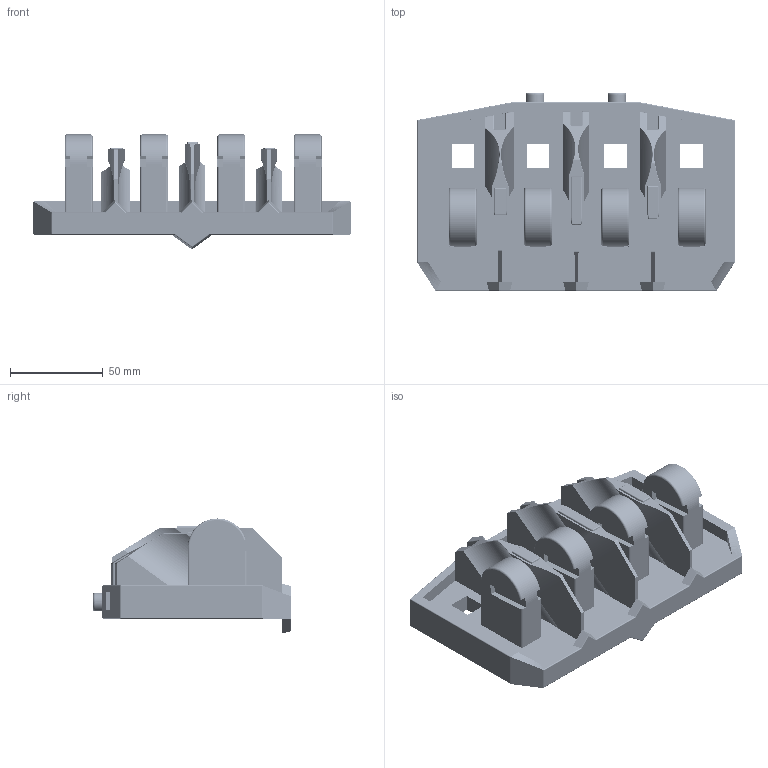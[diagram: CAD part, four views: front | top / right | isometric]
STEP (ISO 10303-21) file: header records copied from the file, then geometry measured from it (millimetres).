
FILE_DESCRIPTION((''),'2;1');
FILE_NAME('Finger Hinge Plate', '2025-03-27T07:30:47', (''), (''), 'ImageToStl.com STEP Converter','', '');
FILE_SCHEMA(('AUTOMOTIVE_DESIGN_CC2'));
Length unit declared in the file: metre
Products named in the file (1): product0
Bounding box: 171.39 x 106.86 x 62.08 mm (x, y, z)
Surface area: 85069.9 mm2 (no closed solid volume)
Topology: 0 solids, 46422 shells, 46422 faces, 139266 edges, 23201 vertices
Faces by surface type: plane 46422
Entity records: 1114143 total; most frequent: DIRECTION 232112, ORIENTED_EDGE 139266, EDGE_CURVE 139266, LINE 139266, VECTOR 139266, AXIS2_PLACEMENT_3D 46423, STYLED_ITEM 46423, FACE_SURFACE 46422
